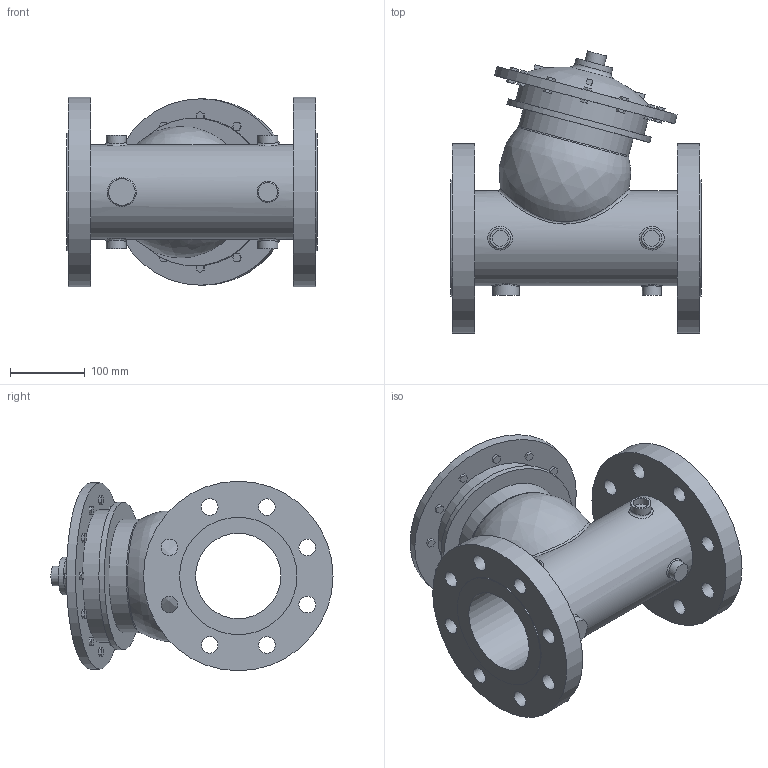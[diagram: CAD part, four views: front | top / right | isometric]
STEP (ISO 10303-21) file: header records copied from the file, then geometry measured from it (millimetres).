
FILE_DESCRIPTION(/* description */ ('VIC FP VALVE PRESSURE RELIEF SERIES 867-7UF (FLG 300)','CAx-IF Rec.Pracs.---Representation and Presentation of Product Manufacturing Information (PMI)---4.0---2014-10-13'),/* implementation_level */ '2;1');
FILE_NAME(/* name */ 'C:\Series 867-7UF\Series 867-7UF final\Victaulic_FP-Bermad_Valve Pressure Relief_Series 867-7UF (FLG 300)\Victaulic_FP-Bermad_Valve Pressure Relief_Series 867-7UF (FLG 300)_4 (100).stp',/* time_stamp */ '2021-09-02T16:53:13+05:00',/* author */ ('kkamble'),/* organization */ ('Victaulic'),/* preprocessor_version */ 'ST-DEVELOPER v17.2',/* originating_system */ 'Autodesk Inventor 2019',/* authorisation */ '');
FILE_SCHEMA (('AP242_MANAGED_MODEL_BASED_3D_ENGINEERING_MIM_LF { 1 0 10303 442 1 1 4 }'));
Length unit declared in the file: inch
Products named in the file (1): 867-7UF-04.0
Bounding box: 335.03 x 378 x 254 mm (x, y, z)
Volume: 7133060.8 mm3; surface area: 637527.4 mm2
Topology: 1 solids, 1 shells, 259 faces, 661 edges, 449 vertices
Faces by surface type: plane 210, cylinder 38, bspline 9, torus 2
Full cylindrical faces by diameter (mm): 21.336 x4, 22.225 x16, 25.4 x1, 26.67 x1, 26.873 x4, 35.56 x1, 50.8 x1, 114.3 x1, 127 x1, 152.4 x1, 157.226 x2, 177.8 x1, 198.12 x1, 249.936 x1, 254 x2
Entity records: 9330 total; most frequent: CARTESIAN_POINT 2525, ORIENTED_EDGE 1334, DIRECTION 1260, EDGE_CURVE 667, LINE 510, VECTOR 510, VERTEX_POINT 455, AXIS2_PLACEMENT_3D 375
